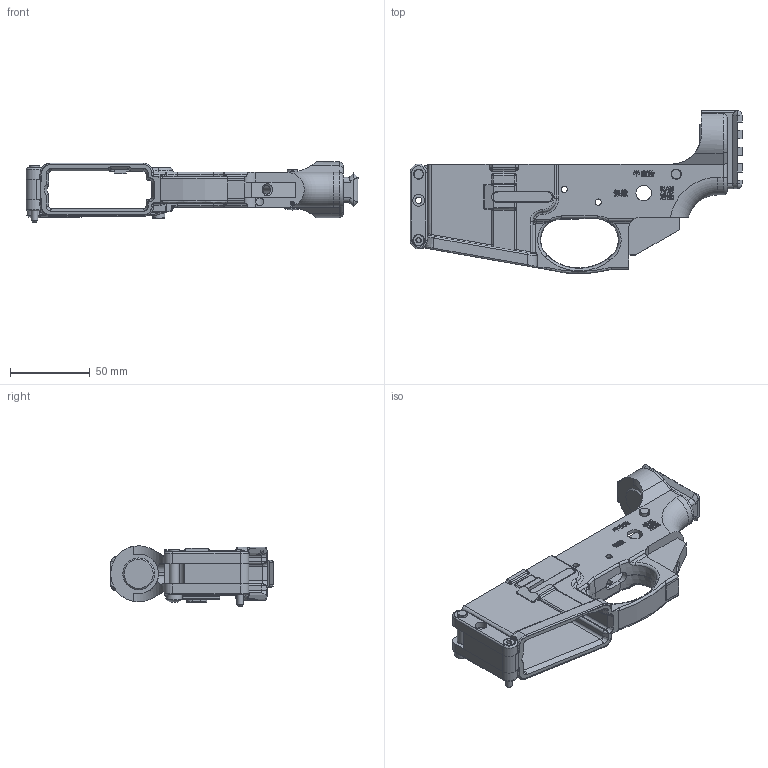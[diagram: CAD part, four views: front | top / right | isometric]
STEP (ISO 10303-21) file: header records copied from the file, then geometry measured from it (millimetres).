
FILE_DESCRIPTION(/* description */ (''),/* implementation_level */ '2;1');
FILE_NAME(/* name */ 'Lower Receiver.step',/* time_stamp */ '2023-02-04T00:17:13-05:00',/* author */ (''),/* organization */ (''),/* preprocessor_version */ 'ST-DEVELOPER v19.2',/* originating_system */ 'Autodesk Translation Framework v11.17.0.187',/* authorisation */ '');
FILE_SCHEMA (('AUTOMOTIVE_DESIGN { 1 0 10303 214 3 1 1 }'));
Products named in the file (14): DS1913.2; Magazine Catch Assembly; Magazine Catch Bar; Magazine Catch Button; Magazine Catch Spring; Takedown Assembly; Takedown Pin Back; Takedown Pin Front; Takedown Pin Detent; Takedown Spring Back; Takedown Spring Front; Lower Receiver Body; 91290A172_NO THREADS_Black-Oxide Alloy Steel Socket Head Screw; 90592A090_NO THREADS_Steel Hex Nut
Assembly tree (14 placements, depth 3):
  DS1913.2
    Magazine Catch Assembly
      Magazine Catch Bar
      Magazine Catch Button
      Magazine Catch Spring
    Takedown Assembly
      Takedown Pin Back
      Takedown Pin Front
      Takedown Pin Detent  x2
      Takedown Spring Back
      Takedown Spring Front
    Lower Receiver Body
    91290A172_NO THREADS_Black-Oxide Alloy Steel Socket Head Screw
    90592A090_NO THREADS_Steel Hex Nut
Bounding box: 208.66 x 102.12 x 37.81 mm (x, y, z)
Volume: 121448.1 mm3; surface area: 64042.9 mm2
Topology: 14 solids, 15 shells, 2324 faces, 6258 edges, 4086 vertices
Faces by surface type: plane 1024, bspline 891, cylinder 313, cone 50, torus 36, sphere 10
Full cylindrical faces by diameter (mm): 1.6 x4, 2.286 x2, 2.464 x1, 2.75 x1, 3.858 x14, 3.962 x4, 4 x8, 4.039 x1, 4.712 x1, 4.727 x23, 4.95 x1, 5.2 x1, 5.537 x1, 5.664 x1, 6.274 x4, 6.375 x2, 7 x1, 7.3 x2, 7.9 x1, 9.525 x1, 9.85 x2, 11.176 x1, 20 x1
Entity records: 113575 total; most frequent: CARTESIAN_POINT 61016, ORIENTED_EDGE 12486, DIRECTION 7854, EDGE_CURVE 6243, VERTEX_POINT 4081, LINE 3526, VECTOR 3526, EDGE_LOOP 2504
